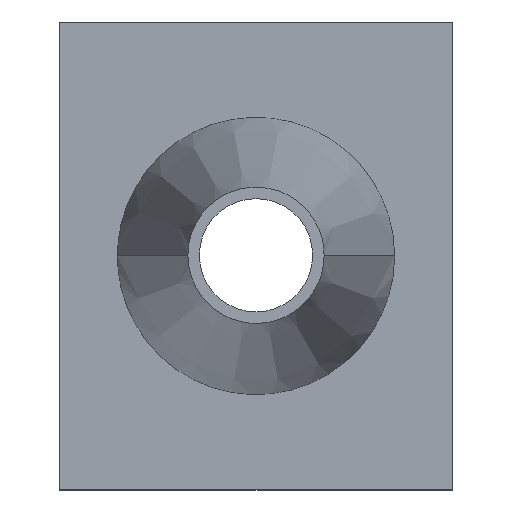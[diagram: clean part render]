
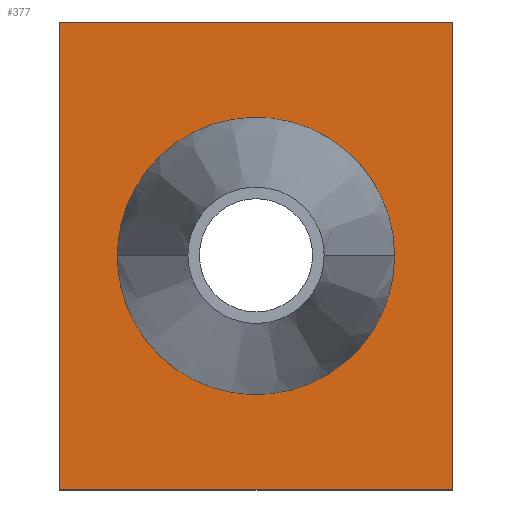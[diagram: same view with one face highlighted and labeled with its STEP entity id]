
A CAD part, top view. The second image highlights one B-rep face of the part: STEP entity #377.
In plain terms, the highlighted planar face has unit normal (0, 0, 1).
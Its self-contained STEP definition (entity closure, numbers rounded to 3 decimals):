
#167=CARTESIAN_POINT('Vertex',(0.,124.,3.)) ;
#174=CARTESIAN_POINT('Vertex',(0.,0.,3.)) ;
#177=CARTESIAN_POINT('Line Origine',(0.,62.,3.)) ;
#198=CARTESIAN_POINT('Vertex',(104.,124.,3.)) ;
#201=CARTESIAN_POINT('Line Origine',(52.,124.,3.)) ;
#222=CARTESIAN_POINT('Vertex',(104.,0.,3.)) ;
#225=CARTESIAN_POINT('Line Origine',(104.,62.,3.)) ;
#242=CARTESIAN_POINT('Line Origine',(52.,0.,3.)) ;
#324=CARTESIAN_POINT('Axis2P3D Location',(0.,0.,3.)) ;
#336=CARTESIAN_POINT('Control Point',(88.737,62.,3.)) ;
#337=CARTESIAN_POINT('Control Point',(88.737,67.954,3.)) ;
#338=CARTESIAN_POINT('Control Point',(87.531,73.908,3.)) ;
#339=CARTESIAN_POINT('Control Point',(85.117,79.536,3.)) ;
#340=CARTESIAN_POINT('Control Point',(78.151,89.492,3.)) ;
#341=CARTESIAN_POINT('Control Point',(67.859,95.952,3.)) ;
#342=CARTESIAN_POINT('Control Point',(62.116,98.082,3.)) ;
#343=CARTESIAN_POINT('Control Point',(50.101,99.896,3.)) ;
#344=CARTESIAN_POINT('Control Point',(38.327,96.89,3.)) ;
#345=CARTESIAN_POINT('Control Point',(32.826,94.196,3.)) ;
#346=CARTESIAN_POINT('Control Point',(23.824,87.201,3.)) ;
#347=CARTESIAN_POINT('Control Point',(18.043,77.436,3.)) ;
#348=CARTESIAN_POINT('Control Point',(16.19,72.436,3.)) ;
#349=CARTESIAN_POINT('Control Point',(15.263,67.218,3.)) ;
#350=CARTESIAN_POINT('Control Point',(15.263,62.,3.)) ;
#351=CARTESIAN_POINT('Vertex',(88.737,62.,3.)) ;
#353=CARTESIAN_POINT('Vertex',(15.263,62.,3.)) ;
#357=CARTESIAN_POINT('Control Point',(88.737,62.,3.)) ;
#358=CARTESIAN_POINT('Control Point',(88.737,56.046,3.)) ;
#359=CARTESIAN_POINT('Control Point',(87.531,50.092,3.)) ;
#360=CARTESIAN_POINT('Control Point',(85.117,44.464,3.)) ;
#361=CARTESIAN_POINT('Control Point',(78.151,34.508,3.)) ;
#362=CARTESIAN_POINT('Control Point',(67.859,28.048,3.)) ;
#363=CARTESIAN_POINT('Control Point',(62.116,25.918,3.)) ;
#364=CARTESIAN_POINT('Control Point',(50.101,24.104,3.)) ;
#365=CARTESIAN_POINT('Control Point',(38.327,27.11,3.)) ;
#366=CARTESIAN_POINT('Control Point',(32.826,29.804,3.)) ;
#367=CARTESIAN_POINT('Control Point',(23.824,36.799,3.)) ;
#368=CARTESIAN_POINT('Control Point',(18.043,46.564,3.)) ;
#369=CARTESIAN_POINT('Control Point',(16.19,51.564,3.)) ;
#370=CARTESIAN_POINT('Control Point',(15.263,56.782,3.)) ;
#371=CARTESIAN_POINT('Control Point',(15.263,62.,3.)) ;
#178=DIRECTION('Vector Direction',(0.,1.,0.)) ;
#202=DIRECTION('Vector Direction',(-1.,0.,0.)) ;
#226=DIRECTION('Vector Direction',(0.,1.,0.)) ;
#243=DIRECTION('Vector Direction',(1.,0.,0.)) ;
#325=DIRECTION('Axis2P3D Direction',(0.,0.,1.)) ;
#326=DIRECTION('Axis2P3D XDirection',(1.,0.,0.)) ;
#327=AXIS2_PLACEMENT_3D('Plane Axis2P3D',#324,#325,#326) ;
#330=ORIENTED_EDGE('',*,*,#181,.F.) ;
#331=ORIENTED_EDGE('',*,*,#246,.T.) ;
#332=ORIENTED_EDGE('',*,*,#229,.T.) ;
#333=ORIENTED_EDGE('',*,*,#205,.T.) ;
#374=ORIENTED_EDGE('',*,*,#355,.F.) ;
#375=ORIENTED_EDGE('',*,*,#372,.T.) ;
#376=FACE_BOUND('',#373,.T.) ;
#179=VECTOR('Line Direction',#178,1.) ;
#203=VECTOR('Line Direction',#202,1.) ;
#227=VECTOR('Line Direction',#226,1.) ;
#244=VECTOR('Line Direction',#243,1.) ;
#377=ADVANCED_FACE('PartBody',(#334,#376),#328,.T.) ;
#335=B_SPLINE_CURVE_WITH_KNOTS('',5,(#336,#337,#338,#339,#340,#341,#342,#343,#344,#345,#346,#347,#348,#349,#350),.UNSPECIFIED.,.F.,.U.,(6,3,3,3,6),(0.,32.156,64.317,96.477,124.659),.UNSPECIFIED.) ;
#356=B_SPLINE_CURVE_WITH_KNOTS('',5,(#357,#358,#359,#360,#361,#362,#363,#364,#365,#366,#367,#368,#369,#370,#371),.UNSPECIFIED.,.F.,.U.,(6,3,3,3,6),(0.,32.156,64.317,96.477,124.659),.UNSPECIFIED.) ;
#181=EDGE_CURVE('',#175,#168,#180,.T.) ;
#205=EDGE_CURVE('',#199,#168,#204,.T.) ;
#229=EDGE_CURVE('',#223,#199,#228,.T.) ;
#246=EDGE_CURVE('',#175,#223,#245,.T.) ;
#355=EDGE_CURVE('',#352,#354,#335,.T.) ;
#372=EDGE_CURVE('',#352,#354,#356,.T.) ;
#329=EDGE_LOOP('',(#330,#331,#332,#333)) ;
#373=EDGE_LOOP('',(#374,#375)) ;
#334=FACE_OUTER_BOUND('',#329,.T.) ;
#180=LINE('Line',#177,#179) ;
#204=LINE('Line',#201,#203) ;
#228=LINE('Line',#225,#227) ;
#245=LINE('Line',#242,#244) ;
#328=PLANE('',#327) ;
#168=VERTEX_POINT('',#167) ;
#175=VERTEX_POINT('',#174) ;
#199=VERTEX_POINT('',#198) ;
#223=VERTEX_POINT('',#222) ;
#352=VERTEX_POINT('',#351) ;
#354=VERTEX_POINT('',#353) ;
